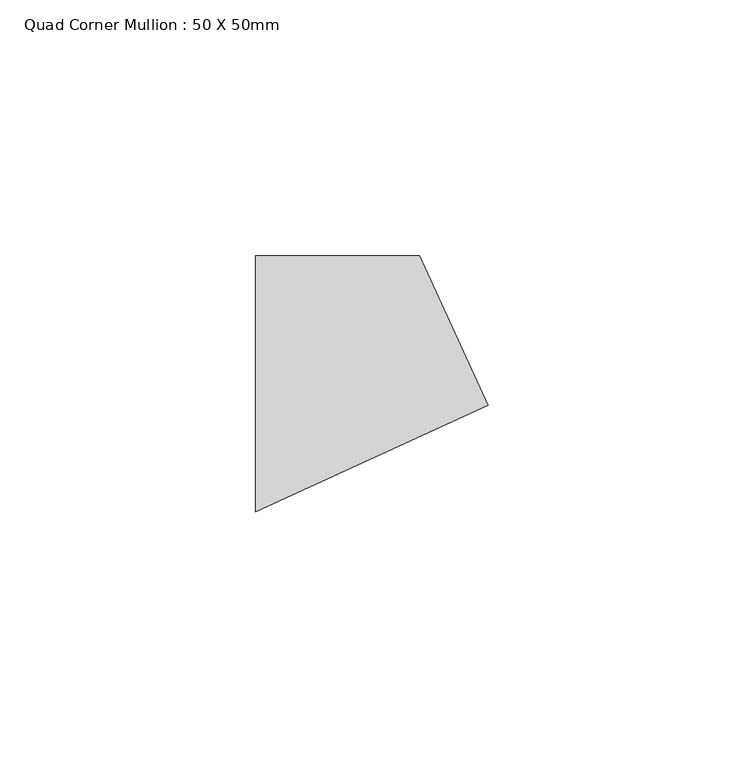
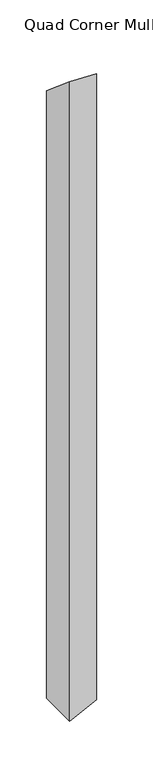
"""IFC4 building model written with IfcOpenShell, lengths in millimetres: member geometry, Quad Corner Mullion : 50 X 50mm."""

from ifc_helpers import new_model, si_unit, origin, place, context, project, spatial, faceted_brep, source, transform, mapped, element, save


def quad_corner_mullion_50_x_50mm_bab9d026(model_context):
    return source(origin(), model_context, "Body", "Brep", [
        faceted_brep([(29.4125559, -4.1926582, -815.8795558), (-16.0523154, -25.0, -815.8795558), (-16.0523154, 25.0, -815.8795558), (16.0523154, 25.0, -815.8795558), (16.0523154, 25.0, -20.9774908), (29.4125559, -4.1926582, 3.5180579), (-16.0523154, 25.0, -20.9774908), (-16.0523154, -25.0, 20.9774908)], [[[0, 1, 2, 3]], [[4, 5, 0, 3]], [[6, 4, 3, 2]], [[7, 6, 2, 1]], [[5, 7, 1, 0]], [[5, 4, 6, 7]]]),
    ])


if __name__ == "__main__":
    model = new_model("IFC4")
    model_context = context("Model", 3, world=origin())
    ifc_project = project(units=[si_unit("LENGTHUNIT", "METRE", prefix="MILLI")], contexts=[model_context])
    site = spatial("IfcSite", under=ifc_project)
    building = spatial("IfcBuilding", under=site)
    placement = place(None, origin())
    quad_corner_mullion_50_x_50mm_shape = quad_corner_mullion_50_x_50mm_bab9d026(model_context)
    element("IfcMember", 1, ObjectType="Quad Corner Mullion : 50 X 50mm", at=placement, inside=building, context=model_context, shape_type="MappedRepresentation", body=[
        mapped(quad_corner_mullion_50_x_50mm_shape, transform((0.0, 0.0, 0.0), x_axis=(1.0, 0.0, 0.0), y_axis=(0.0, 1.0, 0.0), z_axis=(0.0, 0.0, 1.0))),
    ])
    save(model, "model.ifc")
